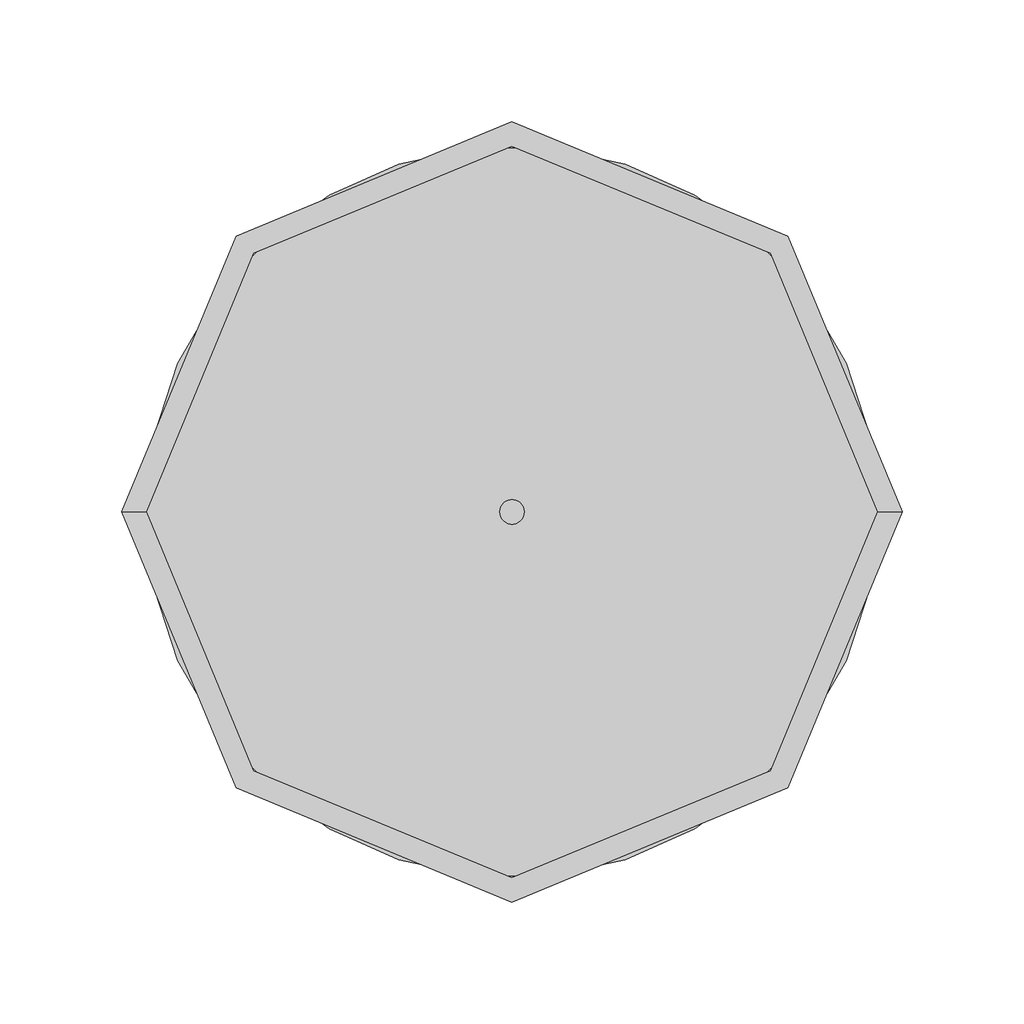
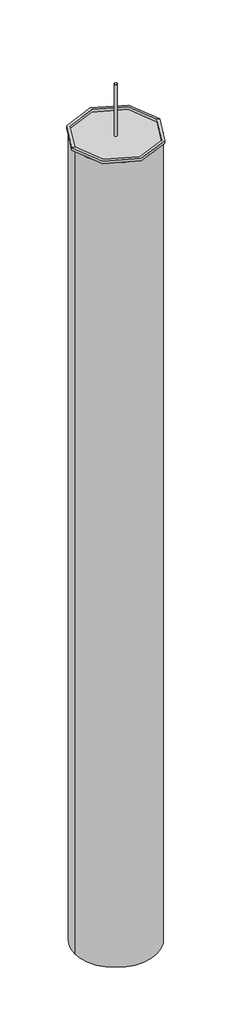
# One storey: 2 proxies.
"""IFC4 building model written with IfcOpenShell, lengths in millimetres."""

import ifcopenshell
import ifcopenshell.guid

model = None  # the IFC model being written
_history = None  # IfcOwnerHistory: only IFC2X3 demands one
_inside = {}  # id of a spatial element -> (the spatial element, [elements in it])
_under = {}  # id of a project, library or spatial element -> (it, [spatial elements below it])
_declared = {}  # id of a project -> (the project, [libraries it declares])
_typed = {}  # id of a type object -> (the type object, [elements of that type])
_made_of = {}  # id of a material, layer set ... -> (it, [elements and type objects made of it])


def new_model(schema):
    """Start an empty IFC model of exactly this schema.

    Asked for "IFC4X3", IfcOpenShell would pick the latest addendum, in which some entities
    have other attributes; the version numbers below select the first issue.
    IFC2X3 requires an IfcOwnerHistory on every rooted entity: one is made here for all.
    """
    global model, _history
    if schema == "IFC4X3":
        model = ifcopenshell.file(schema_version=(4, 3, 0, 0))
    else:
        model = ifcopenshell.file(schema=schema)
    _inside.clear()
    _under.clear()
    _declared.clear()
    _typed.clear()
    _made_of.clear()
    _history = None
    if model.schema == "IFC2X3":
        org = make("IfcOrganization", Name="unknown")
        user = make(
            "IfcPersonAndOrganization",
            ThePerson=make("IfcPerson", FamilyName="unknown"),
            TheOrganization=org,
        )
        app = make(
            "IfcApplication",
            ApplicationDeveloper=org,
            Version="unknown",
            ApplicationFullName="unknown",
            ApplicationIdentifier="unknown",
        )
        _history = make(
            "IfcOwnerHistory",
            OwningUser=user,
            OwningApplication=app,
            ChangeAction="ADDED",
            CreationDate=0,
        )
    return model


def make(cls, **values):
    """One entity of the class cls with the attributes given. An attribute that is None is left unset."""
    return model.create_entity(
        cls, **{name: value for name, value in values.items() if value is not None}
    )


def rooted(cls, **values):
    """An entity with a GlobalId (a new one), such as an element, a storey or a relation."""
    return make(cls, GlobalId=ifcopenshell.guid.new(), OwnerHistory=_history, **values)


def si_unit(unit_type, name, prefix=None):
    """IfcSIUnit, for example si_unit("LENGTHUNIT", "METRE", prefix="MILLI")."""
    return make("IfcSIUnit", UnitType=unit_type, Prefix=prefix, Name=name)


def assignment(units):
    """IfcUnitAssignment: the units of a project."""
    return None if units is None else make("IfcUnitAssignment", Units=units)


def point(xyz):
    """IfcCartesianPoint."""
    return None if xyz is None else make("IfcCartesianPoint", Coordinates=xyz)


def direction(xyz):
    """IfcDirection."""
    return None if xyz is None else make("IfcDirection", DirectionRatios=xyz)


def frame(location, z_axis=None, x_axis=None):
    """IfcAxis2Placement3D, a coordinate frame: its origin and axes. An axis left out is left unset."""
    return make(
        "IfcAxis2Placement3D",
        Location=point(location),
        Axis=direction(z_axis),
        RefDirection=direction(x_axis),
    )


def frame_2d(location, x_axis=None):
    """IfcAxis2Placement2D, a coordinate frame in the plane: its origin and x axis."""
    return make(
        "IfcAxis2Placement2D", Location=point(location), RefDirection=direction(x_axis)
    )


def origin():
    """The frame at (0, 0, 0) with its axes left unset."""
    return frame((0.0, 0.0, 0.0))


def origin_with_axes():
    """The frame at (0, 0, 0) with the z axis (0, 0, 1) and the x axis (1, 0, 0) written out."""
    return frame((0.0, 0.0, 0.0), z_axis=(0.0, 0.0, 1.0), x_axis=(1.0, 0.0, 0.0))


def origin_2d():
    """The frame at (0, 0) in the plane with its x axis left unset."""
    return frame_2d((0.0, 0.0))


def place(relative_to, where):
    """IfcLocalPlacement: puts the frame where relative to a parent placement (None: the world)."""
    return make(
        "IfcLocalPlacement", PlacementRelTo=relative_to, RelativePlacement=where
    )


def context(
    kind, dimensions, precision=None, world=None, true_north=None, identifier=None
):
    """IfcGeometricRepresentationContext, for example the 3D "Model" context."""
    return make(
        "IfcGeometricRepresentationContext",
        ContextIdentifier=identifier,
        ContextType=kind,
        CoordinateSpaceDimension=dimensions,
        Precision=precision,
        WorldCoordinateSystem=world,
        TrueNorth=true_north,
    )


def project(units=None, contexts=None):
    """IfcProject with its units and contexts."""
    return rooted(
        "IfcProject",
        Name="project",
        RepresentationContexts=contexts,
        UnitsInContext=assignment(units),
    )


def spatial(cls, under=None, at=None, **own):
    """A site, building, storey or space (cls), placed at a placement, below another one or the project."""
    s = rooted(cls, ObjectPlacement=at, **own)
    if under is not None:
        _under.setdefault(under.id(), (under, []))[1].append(s)
    return s


def polyline(points):
    """IfcPolyline through the points."""
    return make("IfcPolyline", Points=[point(p) for p in points])


def circle_curve(where, radius):
    """IfcCircle in the frame where."""
    return make("IfcCircle", Position=where, Radius=radius)


def trimmed(basis, trim1, trim2, sense, master):
    """IfcTrimmedCurve: the piece of a basis curve between two trims."""
    return make(
        "IfcTrimmedCurve",
        BasisCurve=basis,
        Trim1=trim1,
        Trim2=trim2,
        SenseAgreement=sense,
        MasterRepresentation=master,
    )


def segment(curve, same_sense, transition):
    """IfcCompositeCurveSegment."""
    return make(
        "IfcCompositeCurveSegment",
        Transition=transition,
        SameSense=same_sense,
        ParentCurve=curve,
    )


def composite_curve(segments, self_intersect=None):
    """IfcCompositeCurve: segments joined end to end."""
    return make("IfcCompositeCurve", Segments=segments, SelfIntersect=self_intersect)


def outline(outer, holes=None, kind="AREA"):
    """IfcArbitraryClosedProfileDef: a profile drawn as a closed curve; with holes, ...WithVoids."""
    if holes is None:
        return make("IfcArbitraryClosedProfileDef", ProfileType=kind, OuterCurve=outer)
    return make(
        "IfcArbitraryProfileDefWithVoids",
        ProfileType=kind,
        OuterCurve=outer,
        InnerCurves=holes,
    )


def extrude(swept, where, along, depth):
    """IfcExtrudedAreaSolid: the profile swept, set in the frame where, extruded along a direction by depth."""
    return make(
        "IfcExtrudedAreaSolid",
        SweptArea=swept,
        Position=where,
        ExtrudedDirection=direction(along),
        Depth=depth,
    )


def shape(context_of_items, identifier, shape_type, items):
    """IfcShapeRepresentation: the items that make up one representation, for example the "Body"."""
    return make(
        "IfcShapeRepresentation",
        ContextOfItems=context_of_items,
        RepresentationIdentifier=identifier,
        RepresentationType=shape_type,
        Items=items,
    )


def source(mapping_origin, context_of_items, identifier, shape_type, items):
    """IfcRepresentationMap: a shape defined once, which mapped items show again and again."""
    return make(
        "IfcRepresentationMap",
        MappingOrigin=mapping_origin,
        MappedRepresentation=shape(context_of_items, identifier, shape_type, items),
    )


def transform(
    local_origin,
    x_axis=None,
    y_axis=None,
    z_axis=None,
    scale=None,
    scale2=None,
    scale3=None,
    uniform=True,
):
    """IfcCartesianTransformationOperator3D, or its non-uniform kind. x_axis, y_axis, z_axis: its Axis1, 2, 3."""
    if uniform:
        return make(
            "IfcCartesianTransformationOperator3D",
            Axis1=direction(x_axis),
            Axis2=direction(y_axis),
            LocalOrigin=point(local_origin),
            Scale=scale,
            Axis3=direction(z_axis),
        )
    return make(
        "IfcCartesianTransformationOperator3DnonUniform",
        Axis1=direction(x_axis),
        Axis2=direction(y_axis),
        LocalOrigin=point(local_origin),
        Scale=scale,
        Axis3=direction(z_axis),
        Scale2=scale2,
        Scale3=scale3,
    )


def mapped(mapping_source, mapping_target):
    """IfcMappedItem: shows the shape of a source again, moved by a transform."""
    return make(
        "IfcMappedItem", MappingSource=mapping_source, MappingTarget=mapping_target
    )


def made_of(thing, what):
    """Note that an element or type object is made of a material, layer set ...; save() writes the relation."""
    if what is not None:
        _made_of.setdefault(what.id(), (what, []))[1].append(thing)
    return thing


def element(
    cls,
    number,
    at=None,
    inside=None,
    cuts=None,
    type_object=None,
    material=None,
    context=None,
    identifier="Body",
    shape_type=None,
    held_by="IfcProductDefinitionShape",
    body=None,
    shapes=None,
    **own,
):
    """One element of the class cls, such as IfcWall. Its Tag is "e" and its number.

    at: its placement. inside: the storey or other place that contains it. cuts: it is an
    opening in that element (IfcRelVoidsElement). A single representation is given by context,
    identifier, shape_type and body (its items); several are given by shapes. held_by: the class
    of the entity that holds the representations. save() writes the other relations.
    """
    e = rooted(cls, Tag="e%d" % number, ObjectPlacement=at, **own)
    if body is not None:
        shapes = [shape(context, identifier, shape_type, body)]
    if shapes is not None:
        e.Representation = make(held_by, Representations=shapes)
    if inside is not None:
        _inside.setdefault(inside.id(), (inside, []))[1].append(e)
    if cuts is not None:
        rooted(
            "IfcRelVoidsElement", RelatingBuildingElement=cuts, RelatedOpeningElement=e
        )
    if type_object is not None:
        _typed.setdefault(type_object.id(), (type_object, []))[1].append(e)
    return made_of(e, material)


def aggregate(whole, parts):
    """IfcRelAggregates: a whole, such as a stair, and the parts it consists of."""
    return rooted("IfcRelAggregates", RelatingObject=whole, RelatedObjects=parts)


def save(model, path):
    """Write the relations noted so far, then the file.

    IfcRelAggregates (storeys below a building ...), IfcRelContainedInSpatialStructure (elements
    in a storey), IfcRelDefinesByType, IfcRelAssociatesMaterial and IfcRelDeclares: one each for
    every whole, place, type object, material and project.
    """
    for whole, parts in _under.values():
        aggregate(whole, parts)
    for where, things in _inside.values():
        rooted(
            "IfcRelContainedInSpatialStructure",
            RelatedElements=things,
            RelatingStructure=where,
        )
    for kind, things in _typed.values():
        rooted("IfcRelDefinesByType", RelatedObjects=things, RelatingType=kind)
    for what, things in _made_of.values():
        rooted("IfcRelAssociatesMaterial", RelatedObjects=things, RelatingMaterial=what)
    for by, libraries in _declared.values():
        rooted("IfcRelDeclares", RelatingContext=by, RelatedDefinitions=libraries)
    model.write(path)


def plane_surface(at):
    """IfcPlane: the flat surface through the origin of the frame at, square to its z axis."""
    return make("IfcPlane", Position=at)


def cylinder_surface(at, radius):
    """IfcCylindricalSurface: all points at the distance radius from the z axis of the frame at."""
    return make("IfcCylindricalSurface", Position=at, Radius=radius)


def revolved_surface(curve, axis_point, axis_direction):
    """IfcSurfaceOfRevolution: the curve turned about the line through axis_point along axis_direction."""
    return make(
        "IfcSurfaceOfRevolution",
        SweptCurve=make("IfcArbitraryOpenProfileDef", ProfileType="CURVE", Curve=curve),
        AxisPosition=make("IfcAxis1Placement", Location=point(axis_point), Axis=direction(axis_direction)),
    )


def advanced_brep(points, edges, surfaces, faces):
    """IfcAdvancedBrep: a solid bounded by faces that lie on surfaces and meet in shared edges.

    An edge is (start, end): straight between two places in points (the first is 0);
    or (start, end, curve); or (start, end, curve, False) where it runs against its curve.
    A face is (place in surfaces, loops), or (place, loops, False) where it looks against
    its surface's normal. A loop lists edges by number (the first is 1), with a minus sign
    where the edge is run from its end to its start. The first loop is the outer one.
    """
    corners = [point(p) for p in points]
    vertices = [make("IfcVertexPoint", VertexGeometry=c) for c in corners]
    made = []
    for start, end, *more in edges:
        made.append(
            make(
                "IfcEdgeCurve",
                EdgeStart=vertices[start],
                EdgeEnd=vertices[end],
                EdgeGeometry=more[0] if more else make("IfcPolyline", Points=[corners[start], corners[end]]),
                SameSense=more[1] if len(more) > 1 else True,
            )
        )
    hull = []
    for where, loops, *sense in faces:
        bounds = []
        for j, loop in enumerate(loops):
            ring = [make("IfcOrientedEdge", EdgeElement=made[abs(k) - 1], Orientation=k > 0) for k in loop]
            bounds.append(
                make(
                    "IfcFaceOuterBound" if j == 0 else "IfcFaceBound",
                    Bound=make("IfcEdgeLoop", EdgeList=ring),
                    Orientation=True,
                )
            )
        hull.append(make("IfcAdvancedFace", Bounds=bounds, FaceSurface=surfaces[where], SameSense=sense[0] if sense else True))
    return make("IfcAdvancedBrep", Outer=make("IfcClosedShell", CfsFaces=hull))


def eng_the_foundation_pile_eng_the_foundation_pile_04229b53(model_context):
    return source(origin(), model_context, "Body", "SweptSolid", [
        extrude(outline(composite_curve([segment(trimmed(circle_curve(origin_2d(), 5.0), [point((-5.0, 0.0))], [point((5.0, 0.0))], False, "CARTESIAN"), True, "CONTINUOUS"), segment(trimmed(circle_curve(origin_2d(), 5.0), [point((5.0, 0.0))], [point((-5.0, 0.0))], False, "CARTESIAN"), True, "CONTINUOUS")], self_intersect=False)), origin_with_axes(), (0.0, 0.0, 1.0), 200.0),
        extrude(outline(composite_curve([segment(trimmed(circle_curve(origin_2d(), 150.0), [point((-150.0, 0.0))], [point((150.0, 0.0))], False, "CARTESIAN"), True, "CONTINUOUS"), segment(trimmed(circle_curve(origin_2d(), 150.0), [point((150.0, 0.0))], [point((-150.0, 0.0))], False, "CARTESIAN"), True, "CONTINUOUS")], self_intersect=False)), frame((0.0, 0.0, -3100.0), z_axis=(0.0, 0.0, 1.0), x_axis=(1.0, 0.0, 0.0)), (0.0, 0.0, 1.0), 3100.0),
    ])


model = new_model("IFC4")

# Units and contexts
model_context = context("Model", 3, world=origin())
ifc_project = project(units=[si_unit("LENGTHUNIT", "METRE", prefix="MILLI")], contexts=[model_context])

# Site, building, storey
site = spatial("IfcSite", under=ifc_project)
building = spatial("IfcBuilding", under=site)
storey = spatial("IfcBuildingStorey", under=building, Name="- 2 - Sotto platea", Elevation=-3000.0)

# Proxies
placement = place(None, origin())
element("IfcBuildingElementProxy", 1, Name="AKTI-VO 201 VOLTECO", ObjectType="AKTI-VO 201 VOLTECO", at=placement, inside=storey, context=model_context, shape_type="AdvancedBrep", body=[
    advanced_brep(
    [(907.6847794, -14630.9443695, -2990.0), (907.6847794, -14630.9443695, -3000.0), (587.6847794, -14630.9443695, -3000.0), (587.6847794, -14630.9443695, -2990.0), (897.6847794, -14630.9443695, -2990.0), (597.6847794, -14630.9443695, -2990.0), (897.6847794, -14630.9443695, -3000.0), (597.6847794, -14630.9443695, -3000.0)],
    [
        (0, 1),
        (1, 2, circle_curve(frame((747.6847794, -14630.9443695, -3000.0), z_axis=(0.0, 0.0, 1.0), x_axis=(1.0, 0.0, 0.0)), 160.0)),
        (2, 3),
        (3, 0, circle_curve(frame((747.6847794, -14630.9443695, -2990.0), z_axis=(0.0, 0.0, -1.0), x_axis=(1.0, 0.0, 0.0)), 160.0)),
        (4, 0),
        (3, 5),
        (5, 4, circle_curve(frame((747.6847794, -14630.9443695, -2990.0), z_axis=(0.0, 0.0, -1.0), x_axis=(1.0, 0.0, 0.0)), 150.0)),
        (6, 4),
        (5, 7),
        (7, 6, circle_curve(frame((747.6847794, -14630.9443695, -3000.0), z_axis=(0.0, 0.0, -1.0), x_axis=(1.0, 0.0, 0.0)), 150.0)),
        (1, 6),
        (7, 2),
        (0, 3, circle_curve(frame((747.6847794, -14630.9443695, -2990.0), z_axis=(0.0, 0.0, -1.0), x_axis=(-1.0, 0.0, 0.0)), 160.0)),
        (2, 1, circle_curve(frame((747.6847794, -14630.9443695, -3000.0), z_axis=(0.0, 0.0, 1.0), x_axis=(-1.0, 0.0, 0.0)), 160.0)),
        (4, 5, circle_curve(frame((747.6847794, -14630.9443695, -2990.0), z_axis=(0.0, 0.0, -1.0), x_axis=(-1.0, 0.0, 0.0)), 150.0)),
        (6, 7, circle_curve(frame((747.6847794, -14630.9443695, -3000.0), z_axis=(0.0, 0.0, -1.0), x_axis=(-1.0, 0.0, 0.0)), 150.0)),
    ],
    [
        cylinder_surface(frame((747.6847794, -14630.9443695, -3000.0), z_axis=(0.0, 0.0, 1.0), x_axis=(1.0, 0.0, 0.0)), 160.0),
        plane_surface(frame((747.6847794, -14630.9443695, -2990.0), z_axis=(0.0, 0.0, 1.0), x_axis=(1.0, 0.0, 0.0))),
        revolved_surface(polyline([(897.6847794, -14630.9443695, -2990.0), (897.6847794, -14630.9443695, -3000.0)]), (747.6847794, -14630.9443695, -3000.0), (0.0, 0.0, 1.0)),
        plane_surface(frame((747.6847794, -14630.9443695, -3000.0), z_axis=(0.0, 0.0, -1.0), x_axis=(1.0, 0.0, 0.0))),
        cylinder_surface(frame((747.6847794, -14630.9443695, -3000.0), z_axis=(0.0, 0.0, 1.0), x_axis=(-1.0, 0.0, 0.0)), 160.0),
        plane_surface(frame((747.6847794, -14630.9443695, -2990.0), z_axis=(0.0, 0.0, 1.0), x_axis=(-1.0, 0.0, 0.0))),
        revolved_surface(polyline([(597.6847794, -14630.9443695, -2990.0), (597.6847794, -14630.9443695, -3000.0)]), (747.6847794, -14630.9443695, -3000.0), (0.0, 0.0, 1.0)),
        plane_surface(frame((747.6847794, -14630.9443695, -3000.0), z_axis=(0.0, 0.0, -1.0), x_axis=(-1.0, 0.0, 0.0))),
    ],
    [
        (0, [[1, 2, 3, 4]]),
        (1, [[5, -4, 6, 7]]),
        (2, [[8, -7, 9, 10]]),
        (3, [[11, -10, 12, -2]]),
        (4, [[-1, 13, -3, 14]]),
        (5, [[-5, 15, -6, -13]]),
        (6, [[-8, 16, -9, -15]]),
        (7, [[-11, -14, -12, -16]]),
    ],
),
])
eng_the_foundation_pile_eng_the_foundation_pile_shape = eng_the_foundation_pile_eng_the_foundation_pile_04229b53(model_context)
element("IfcBuildingElementProxy", 2, Name="ENG-The Foundation pile : ENG-The Foundation pile", ObjectType="ENG-The Foundation pile : ENG-The Foundation pile", at=placement, inside=storey, context=model_context, shape_type="MappedRepresentation", body=[
    mapped(eng_the_foundation_pile_eng_the_foundation_pile_shape, transform((747.6847794, -14630.9443695, -3000.0), x_axis=(-1.0, 0.0, 0.0), y_axis=(0.0, -1.0, 0.0), z_axis=(0.0, 0.0, 1.0))),
])

save(model, "model.ifc")
